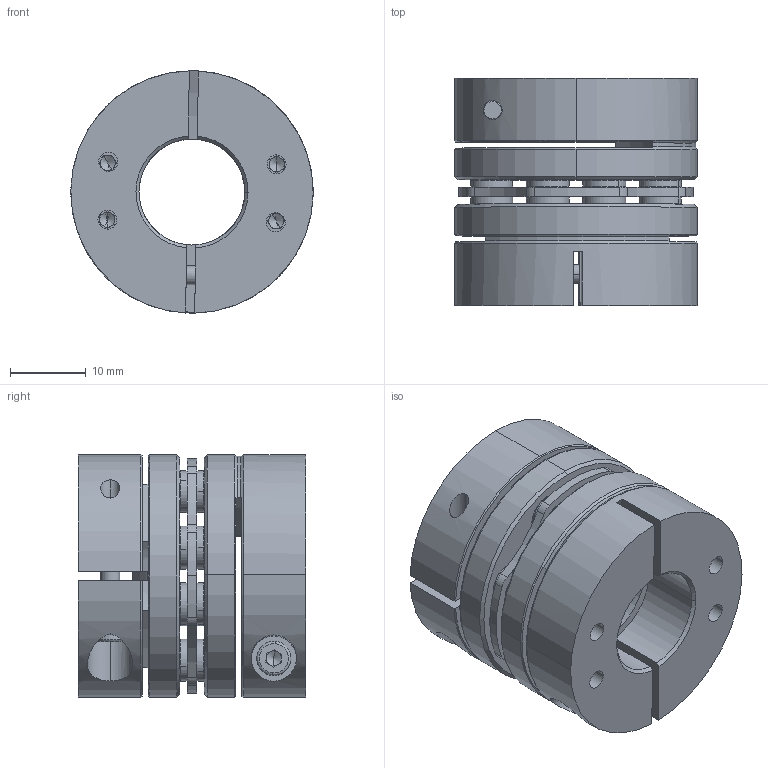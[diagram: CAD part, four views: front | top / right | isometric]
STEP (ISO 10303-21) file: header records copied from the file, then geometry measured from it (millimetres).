
FILE_DESCRIPTION (( 'STEP AP203' ), '1' );
FILE_NAME ('LDG-32-B1-14-14.STEP', '2021-10-28T05:18:16', ( '' ), ( '' ), 'SwSTEP 2.0', 'SolidWorks 2018', '' );
FILE_SCHEMA (( 'CONFIG_CONTROL_DESIGN' ));
Length unit declared in the file: millimetre
Products named in the file (2): LDG-32-B1-14-14; 錨璃5^LDG-32蚾饜芞1
Assembly tree (1 placements, depth 2):
  LDG-32-B1-14-14
    錨璃5^LDG-32蚾饜芞1
Bounding box: 32 x 30 x 32 mm (x, y, z)
Volume: 16039.4 mm3; surface area: 12867.6 mm2
Topology: 1 solids, 11 shells, 795 faces, 1967 edges, 1216 vertices
Faces by surface type: cylinder 301, plane 244, cone 230, torus 20
Entity records: 24191 total; most frequent: CARTESIAN_POINT 4472, DIRECTION 4465, ORIENTED_EDGE 3878, EDGE_CURVE 1939, AXIS2_PLACEMENT_3D 1819, VERTEX_POINT 1216, CIRCLE 1020, EDGE_LOOP 939
